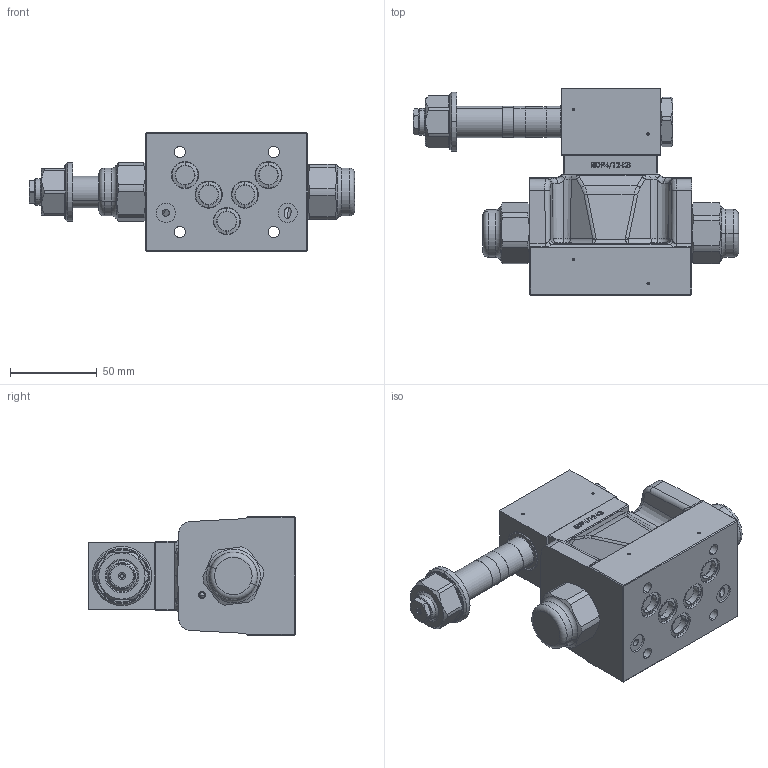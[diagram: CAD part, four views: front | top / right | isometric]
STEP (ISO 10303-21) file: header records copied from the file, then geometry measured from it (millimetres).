
FILE_DESCRIPTION (( 'STEP AP214' ), '1' );
FILE_NAME ('WVBFA10-4_2-Aside-ti_ae_xi_xe.STEP', '2018-06-12T06:18:53', ( '' ), ( '' ), 'SwSTEP 2.0', 'SolidWorks 2016', '' );
FILE_SCHEMA (( 'AUTOMOTIVE_DESIGN' ));
Length unit declared in the file: millimetre
Products named in the file (2): WVBFA10-4_2-Aside-ti_ae_xi_xe
Bounding box: 187 x 118.6 x 68 mm (x, y, z)
Volume: 526468 mm3; surface area: 82630.7 mm2
Topology: 7 solids, 12 shells, 1155 faces, 2764 edges, 1706 vertices
Faces by surface type: plane 423, cylinder 329, bspline 180, cone 150, torus 57, sphere 16
Entity records: 54268 total; most frequent: CARTESIAN_POINT 16066, ORIENTED_EDGE 5452, DIRECTION 4955, EDGE_CURVE 2726, AXIS2_PLACEMENT_3D 1829, VERTEX_POINT 1706, EDGE_LOOP 1300, LINE 1297
